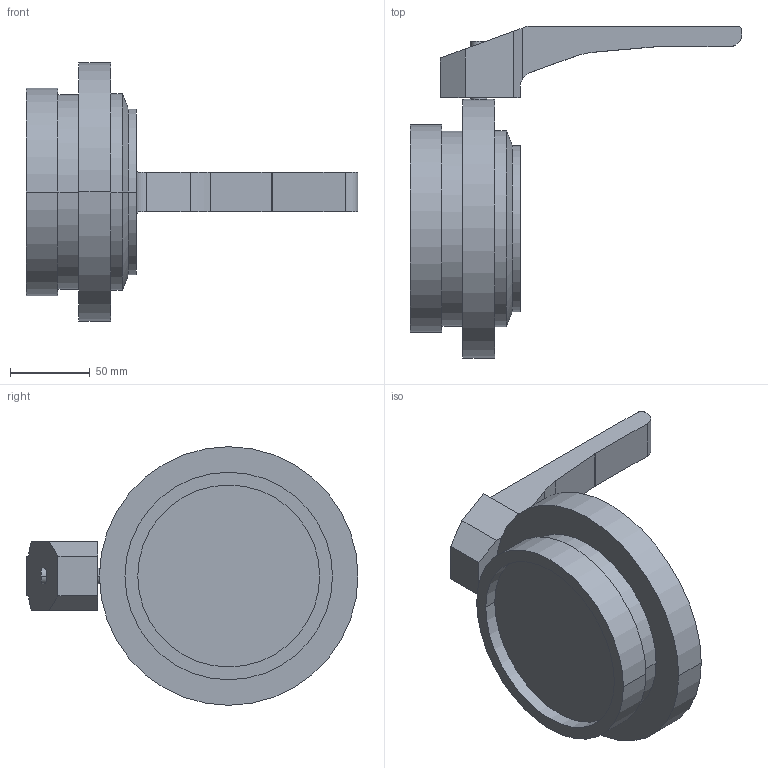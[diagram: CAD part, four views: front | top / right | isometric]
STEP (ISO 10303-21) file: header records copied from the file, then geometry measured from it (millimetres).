
FILE_DESCRIPTION(('Creo Elements/Direct Modeling STEP Export'),'2;1');
FILE_NAME('SV1-100-H-1S-2G.stp','2014-01-08T15:29:52',(''),(''),'Creo Elements/Direct Modeling STEP processor for AP214 (Solid Model)','Creo Elements/Direct Modeling 17.0D 15-Jul-2011 (C) Parametric Technology GmbH','');
FILE_SCHEMA(('AUTOMOTIVE_DESIGN { 1 0 10303 214 1 1 1 1 }'));
Length unit declared in the file: millimetre
Products named in the file (3): SV1-100-H-1K2G.1; Handhebel-SV-40-100; SV1-100-1S-2G-H
Assembly tree (2 placements, depth 2):
  SV1-100-1S-2G-H
    Handhebel-SV-40-100
    SV1-100-H-1K2G.1
Bounding box: 208 x 208 x 162 mm (x, y, z)
Volume: 1005384.3 mm3; surface area: 97947.8 mm2
Topology: 2 solids, 2 shells, 51 faces, 116 edges, 75 vertices
Faces by surface type: plane 26, cylinder 23, cone 2
Entity records: 1944 total; most frequent: CARTESIAN_POINT 749, DIRECTION 233, ORIENTED_EDGE 232, EDGE_CURVE 116, AXIS2_PLACEMENT_3D 83, VERTEX_POINT 75, VECTOR 67, LINE 67
